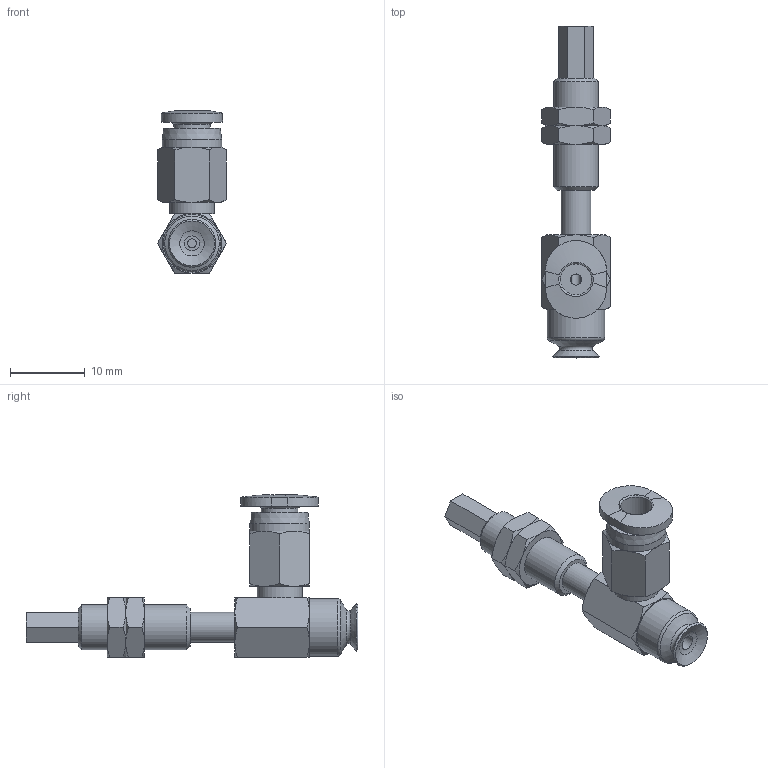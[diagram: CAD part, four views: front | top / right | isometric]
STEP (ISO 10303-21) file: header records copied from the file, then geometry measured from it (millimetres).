
FILE_DESCRIPTION(('STEP AP203'),'1');
FILE_NAME('-O.stp','2025-04-09T05:42:41',(' '),(' '),'Spatial InterOp 3D',' ',' ');
FILE_SCHEMA(('CONFIG_CONTROL_DESIGN'));
Length unit declared in the file: millimetre
Products named in the file (7): BNABPFYS-6A-6-※-O; CONNECTOR-6A-6; Nut-6A-6-s; NAPFTS-6A-6-FBODY; NAPFTS-6A-6-MBODY; BPFG-6A-※; PC-C_04-M3
Assembly tree (7 placements, depth 2):
  BNABPFYS-6A-6-※-O
    CONNECTOR-6A-6
    Nut-6A-6-s  x2
    NAPFTS-6A-6-FBODY
    NAPFTS-6A-6-MBODY
    BPFG-6A-※
    PC-C_04-M3
Bounding box: 9.24 x 44.5 x 21.77 mm (x, y, z)
Volume: 1479.3 mm3; surface area: 2981.1 mm2
Topology: 6 solids, 8 shells, 182 faces, 380 edges, 227 vertices
Faces by surface type: plane 73, cone 68, cylinder 24, torus 9, bspline 5, revolution 3
Full cylindrical faces by diameter (mm): 1.2 x1, 2 x1, 2.459 x2, 2.5 x2, 3 x2, 4 x4, 4.9 x1, 5.188 x2, 6 x4, 6.1 x1, 7.7 x1, 8 x1
Entity records: 4655 total; most frequent: CARTESIAN_POINT 1274, DIRECTION 631, ORIENTED_EDGE 546, AXIS2_PLACEMENT_3D 277, EDGE_CURVE 274, EDGE_LOOP 232, VERTEX_POINT 190, FACE_OUTER_BOUND 130
